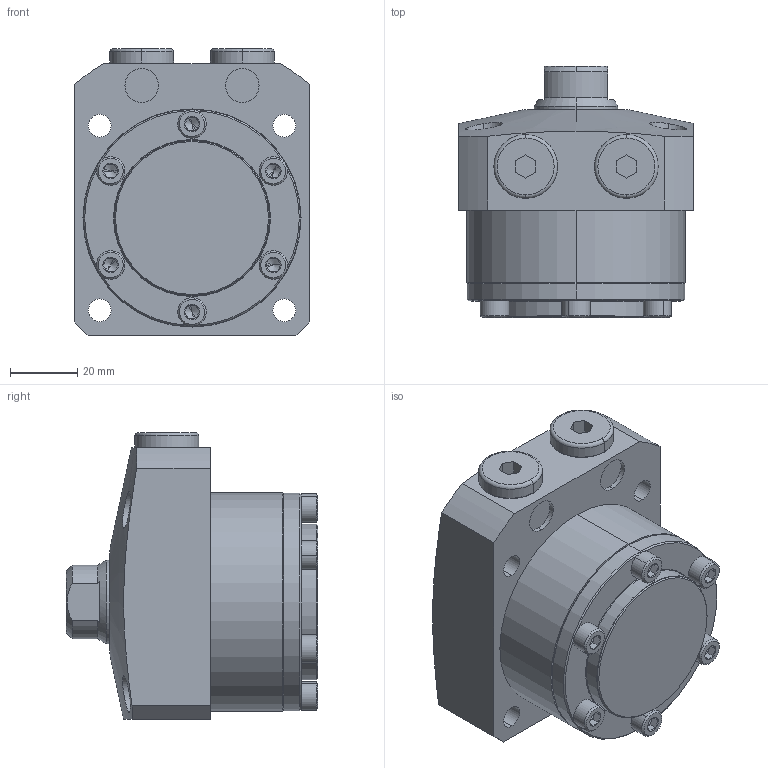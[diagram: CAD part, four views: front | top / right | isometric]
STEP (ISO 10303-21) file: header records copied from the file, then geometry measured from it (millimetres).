
FILE_DESCRIPTION (( 'STEP AP203' ), '1' );
FILE_NAME ('680650-CA-015.step', '2016-11-02T03:26:15', ( 'wxp' ), ( '' ), 'SwSTEP 2.0', 'SolidWorks 2011', '' );
FILE_SCHEMA (( 'CONFIG_CONTROL_DESIGN' ));
Length unit declared in the file: millimetre
Products named in the file (6): 680650-CA-015; 葩璃 68065-CA-15-5^680650-CA-015; 葩璃 68065-CA-15-4^680650-CA-015; 葩璃 68065-CA-15-3^680650-CA-015; 葩璃 68065-CA-15-2^680650-CA-015; 葩璃 68065-CA-15-1^680650-CA-015
Assembly tree (11 placements, depth 2):
  680650-CA-015
    葩璃 68065-CA-15-4^680650-CA-015  x6
    葩璃 68065-CA-15-5^680650-CA-015  x2
    葩璃 68065-CA-15-3^680650-CA-015
    葩璃 68065-CA-15-2^680650-CA-015
    葩璃 68065-CA-15-1^680650-CA-015
Bounding box: 70 x 75 x 85.5 mm (x, y, z)
Volume: 248143.4 mm3; surface area: 45384.2 mm2
Topology: 11 solids, 11 shells, 345 faces, 675 edges, 370 vertices
Faces by surface type: plane 140, cone 96, cylinder 93, torus 16
Entity records: 5712 total; most frequent: CARTESIAN_POINT 1221, DIRECTION 859, ORIENTED_EDGE 698, AXIS2_PLACEMENT_3D 360, EDGE_CURVE 349, VERTEX_POINT 213, EDGE_LOOP 202, CIRCLE 182
